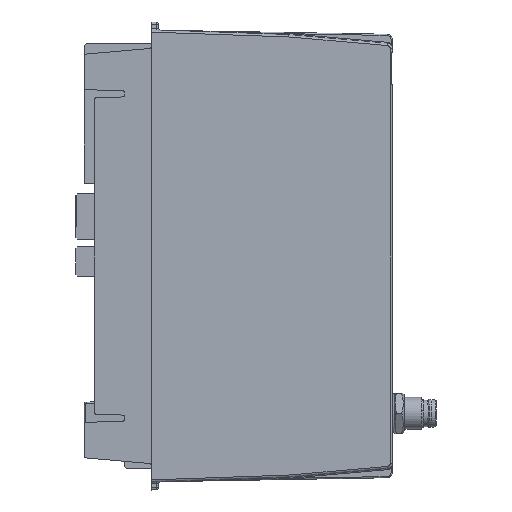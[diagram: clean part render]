
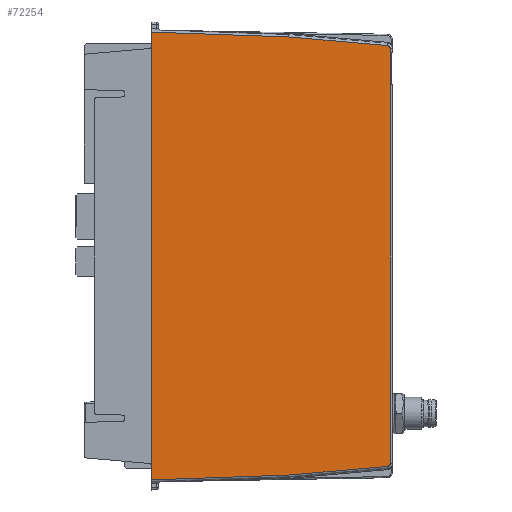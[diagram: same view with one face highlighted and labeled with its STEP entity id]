
A CAD part, left-side view. The second image highlights one B-rep face of the part: STEP entity #72254.
In plain terms, the highlighted planar face has unit normal (-1, -0.018, 0).
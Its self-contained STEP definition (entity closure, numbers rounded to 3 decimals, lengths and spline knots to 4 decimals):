
#360=ELLIPSE('',#76219,0.0315,0.0315);
#361=ELLIPSE('',#76220,0.0315,0.0315);
#3578=PLANE('',#76218);
#6404=FACE_OUTER_BOUND('',#10215,.T.);
#10215=EDGE_LOOP('',(#56841,#56842,#56843,#56844,#56845,#56846,#56847,#56848,
#56849,#56850));
#17246=LINE('',#113056,#24980);
#17247=LINE('',#113062,#24981);
#17248=LINE('',#113064,#24982);
#17249=LINE('',#113066,#24983);
#17250=LINE('',#113067,#24984);
#17251=LINE('',#113069,#24985);
#17252=LINE('',#113073,#24986);
#17253=LINE('',#113076,#24987);
#24980=VECTOR('',#88757,39.3701);
#24981=VECTOR('',#88764,39.3701);
#24982=VECTOR('',#88765,39.3701);
#24983=VECTOR('',#88766,39.3701);
#24984=VECTOR('',#88767,39.3701);
#24985=VECTOR('',#88768,39.3701);
#24986=VECTOR('',#88771,39.3701);
#24987=VECTOR('',#88774,39.3701);
#32769=VERTEX_POINT('',#113054);
#32770=VERTEX_POINT('',#113055);
#32771=VERTEX_POINT('',#113060);
#32772=VERTEX_POINT('',#113061);
#32773=VERTEX_POINT('',#113063);
#32774=VERTEX_POINT('',#113065);
#32775=VERTEX_POINT('',#113068);
#32776=VERTEX_POINT('',#113070);
#32777=VERTEX_POINT('',#113072);
#32778=VERTEX_POINT('',#113074);
#41217=EDGE_CURVE('',#32769,#32770,#17246,.T.);
#41220=EDGE_CURVE('',#32771,#32772,#17247,.T.);
#41221=EDGE_CURVE('',#32772,#32773,#17248,.T.);
#41222=EDGE_CURVE('',#32774,#32773,#17249,.T.);
#41223=EDGE_CURVE('',#32774,#32769,#17250,.T.);
#41224=EDGE_CURVE('',#32770,#32775,#17251,.T.);
#41225=EDGE_CURVE('',#32775,#32776,#360,.T.);
#41226=EDGE_CURVE('',#32776,#32777,#17252,.T.);
#41227=EDGE_CURVE('',#32777,#32778,#361,.T.);
#41228=EDGE_CURVE('',#32778,#32771,#17253,.T.);
#56841=ORIENTED_EDGE('',*,*,#41220,.T.);
#56842=ORIENTED_EDGE('',*,*,#41221,.T.);
#56843=ORIENTED_EDGE('',*,*,#41222,.F.);
#56844=ORIENTED_EDGE('',*,*,#41223,.T.);
#56845=ORIENTED_EDGE('',*,*,#41217,.T.);
#56846=ORIENTED_EDGE('',*,*,#41224,.T.);
#56847=ORIENTED_EDGE('',*,*,#41225,.T.);
#56848=ORIENTED_EDGE('',*,*,#41226,.T.);
#56849=ORIENTED_EDGE('',*,*,#41227,.T.);
#56850=ORIENTED_EDGE('',*,*,#41228,.T.);
#72254=ADVANCED_FACE('',(#6404),#3578,.T.);
#76218=AXIS2_PLACEMENT_3D('',#113059,#88762,#88763);
#76219=AXIS2_PLACEMENT_3D('',#113071,#88769,#88770);
#76220=AXIS2_PLACEMENT_3D('',#113075,#88772,#88773);
#88757=DIRECTION('',(0.017,-0.999,0.035));
#88762=DIRECTION('center_axis',(-1.,-0.017,
0.));
#88763=DIRECTION('ref_axis',(-0.017,1.,0.));
#88764=DIRECTION('',(-0.017,0.999,0.035));
#88765=DIRECTION('',(0.,0.,-1.));
#88766=DIRECTION('',(0.,0.,1.));
#88767=DIRECTION('',(0.,0.,-1.));
#88768=DIRECTION('',(0.017,-0.996,0.087));
#88769=DIRECTION('center_axis',(-1.,-0.017,
0.));
#88770=DIRECTION('ref_axis',(0.017,-1.,0.));
#88771=DIRECTION('',(0.,0.,1.));
#88772=DIRECTION('center_axis',(-1.,-0.017,
0.));
#88773=DIRECTION('ref_axis',(0.017,-1.,0.));
#88774=DIRECTION('',(-0.017,0.996,0.087));
#113054=CARTESIAN_POINT('',(-0.0227,-0.8686,-4.2421));
#113055=CARTESIAN_POINT('',(0.0007,-2.2063,-4.1954));
#113056=CARTESIAN_POINT('',(-0.0282,-0.5512,-4.2532));
#113059=CARTESIAN_POINT('Origin',(-0.0295,-0.4749,
-2.0669));
#113060=CARTESIAN_POINT('',(0.0007,-2.2063,0.0616));
#113061=CARTESIAN_POINT('',(-0.0227,-0.8686,0.1083));
#113062=CARTESIAN_POINT('',(-0.0282,-0.5512,0.1194));
#113063=CARTESIAN_POINT('',(-0.0227,-0.8686,-0.0312));
#113064=CARTESIAN_POINT('',(-0.0227,-0.8686,0.128));
#113065=CARTESIAN_POINT('',(-0.0227,-0.8686,-4.1027));
#113066=CARTESIAN_POINT('',(-0.0227,-0.8686,-7.5932));
#113067=CARTESIAN_POINT('',(-0.0227,-0.8686,0.128));
#113068=CARTESIAN_POINT('',(0.0174,-3.163,-4.1117));
#113069=CARTESIAN_POINT('',(-0.0261,-0.6728,-4.3296));
#113070=CARTESIAN_POINT('',(0.0179,-3.1918,-4.0803));
#113071=CARTESIAN_POINT('Origin',(0.0173,-3.1603,-4.0803));
#113072=CARTESIAN_POINT('',(0.0179,-3.1918,-0.0535));
#113073=CARTESIAN_POINT('',(0.0179,-3.1918,-0.0535));
#113074=CARTESIAN_POINT('',(0.0174,-3.163,-0.0221));
#113075=CARTESIAN_POINT('Origin',(0.0173,-3.1603,
-0.0535));
#113076=CARTESIAN_POINT('',(-0.0261,-0.6728,0.1957));
